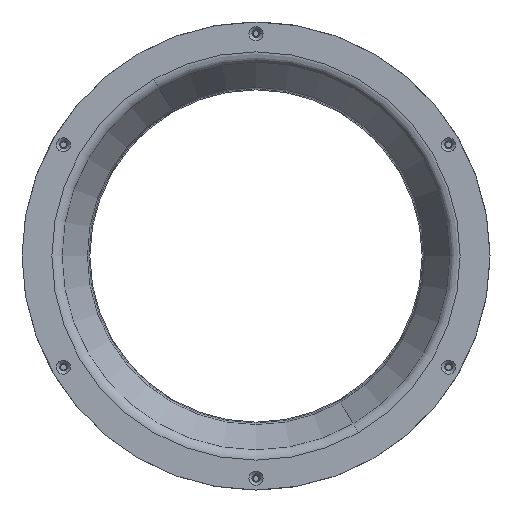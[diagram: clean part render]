
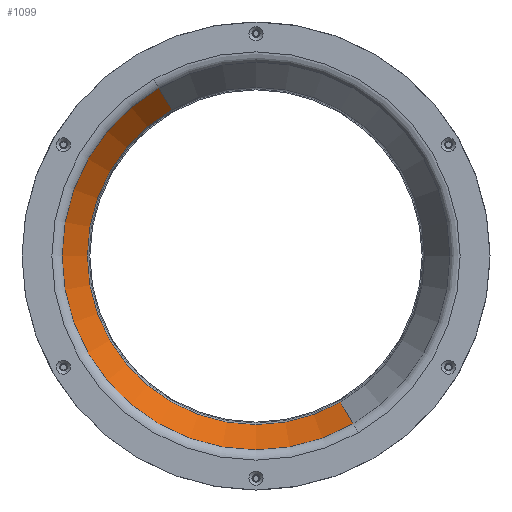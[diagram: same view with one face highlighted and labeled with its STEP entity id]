
A CAD part, front view. The second image highlights one B-rep face of the part: STEP entity #1099.
In plain terms, the highlighted conical face has half-angle 30 degrees and reference radius 82.902 mm.
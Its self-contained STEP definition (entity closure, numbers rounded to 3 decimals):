
#129 = EDGE_CURVE ( 'NONE', #3526, #752, #604, .T. ) ;
#344 = VECTOR ( 'NONE', #1973, 1000. ) ;
#489 = VECTOR ( 'NONE', #4202, 1000. ) ;
#560 = EDGE_CURVE ( 'NONE', #4207, #3217, #4287, .T. ) ;
#604 = CIRCLE ( 'NONE', #2908, 82.902 ) ;
#752 = VERTEX_POINT ( 'NONE', #3799 ) ;
#809 = LINE ( 'NONE', #3405, #344 ) ;
#916 = ORIENTED_EDGE ( 'NONE', *, *, #560, .F. ) ;
#1099 = ADVANCED_FACE ( 'NONE', ( #2041 ), #1173, .F. ) ;
#1173 = CONICAL_SURFACE ( 'NONE', #2168, 82.902, 0.524 ) ;
#1295 = CARTESIAN_POINT ( 'NONE',  ( -7.688, 142.354, 0. ) ) ;
#1371 = CARTESIAN_POINT ( 'NONE',  ( -43.773, 142.354, 62.501 ) ) ;
#1884 = CARTESIAN_POINT ( 'NONE',  ( -49.139, 123.766, 71.795 ) ) ;
#1973 = DIRECTION ( 'NONE',  ( -0.25, -0.866, 0.433 ) ) ;
#2009 = CARTESIAN_POINT ( 'NONE',  ( 33.763, 123.766, -71.795 ) ) ;
#2023 = CARTESIAN_POINT ( 'NONE',  ( -7.688, 123.766, 0. ) ) ;
#2041 = FACE_OUTER_BOUND ( 'NONE', #2129, .T. ) ;
#2129 = EDGE_LOOP ( 'NONE', ( #916, #3155, #2819, #3636 ) ) ;
#2168 = AXIS2_PLACEMENT_3D ( 'NONE', #3468, #4182, #4170 ) ;
#2341 = CARTESIAN_POINT ( 'NONE',  ( 28.397, 142.354, -62.501 ) ) ;
#2417 = AXIS2_PLACEMENT_3D ( 'NONE', #1295, #3433, #4126 ) ;
#2819 = ORIENTED_EDGE ( 'NONE', *, *, #129, .T. ) ;
#2908 = AXIS2_PLACEMENT_3D ( 'NONE', #2023, #3744, #4495 ) ;
#2970 = EDGE_CURVE ( 'NONE', #4207, #3526, #809, .T. ) ;
#3155 = ORIENTED_EDGE ( 'NONE', *, *, #2970, .T. ) ;
#3217 = VERTEX_POINT ( 'NONE', #2341 ) ;
#3405 = CARTESIAN_POINT ( 'NONE',  ( -49.139, 123.766, 71.795 ) ) ;
#3433 = DIRECTION ( 'NONE',  ( 0., -1., 0. ) ) ;
#3468 = CARTESIAN_POINT ( 'NONE',  ( -7.688, 123.766, 0. ) ) ;
#3526 = VERTEX_POINT ( 'NONE', #1884 ) ;
#3636 = ORIENTED_EDGE ( 'NONE', *, *, #3943, .F. ) ;
#3744 = DIRECTION ( 'NONE',  ( 0., -1., 0. ) ) ;
#3799 = CARTESIAN_POINT ( 'NONE',  ( 33.763, 123.766, -71.795 ) ) ;
#3943 = EDGE_CURVE ( 'NONE', #3217, #752, #4337, .T. ) ;
#4126 = DIRECTION ( 'NONE',  ( 0.5, 0., -0.866 ) ) ;
#4170 = DIRECTION ( 'NONE',  ( 0.5, 0., -0.866 ) ) ;
#4182 = DIRECTION ( 'NONE',  ( 0., -1., 0. ) ) ;
#4202 = DIRECTION ( 'NONE',  ( 0.25, -0.866, -0.433 ) ) ;
#4207 = VERTEX_POINT ( 'NONE', #1371 ) ;
#4287 = CIRCLE ( 'NONE', #2417, 72.17 ) ;
#4337 = LINE ( 'NONE', #2009, #489 ) ;
#4495 = DIRECTION ( 'NONE',  ( 0.5, 0., -0.866 ) ) ;
